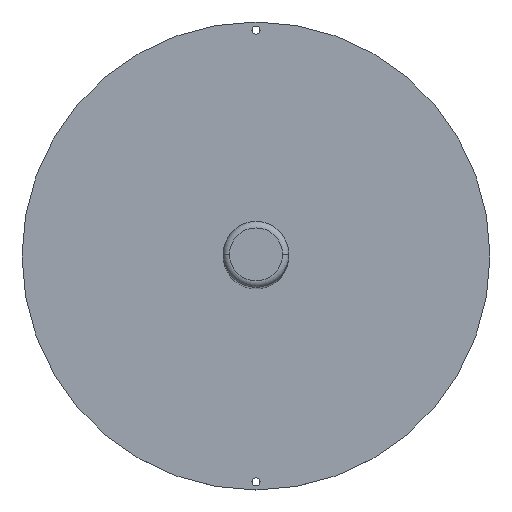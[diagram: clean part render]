
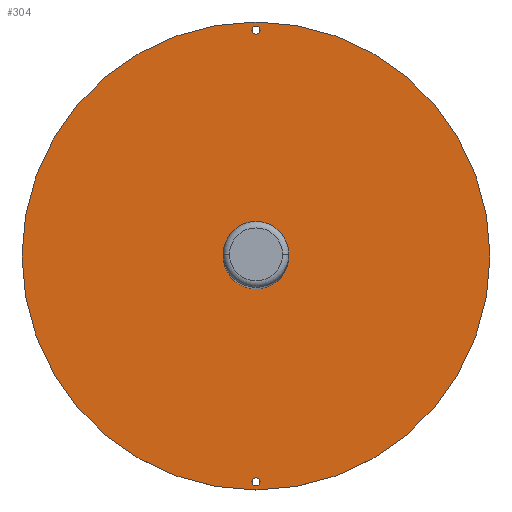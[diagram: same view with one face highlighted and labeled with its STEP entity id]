
A CAD part, top view. The second image highlights one B-rep face of the part: STEP entity #304.
In plain terms, the highlighted planar face has unit normal (0, 0, 1).
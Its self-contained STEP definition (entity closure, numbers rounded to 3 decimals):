
#12 = CIRCLE ( 'NONE', #32, 1.25 ) ;
#32 = AXIS2_PLACEMENT_3D ( 'NONE', #290, #465, #532 ) ;
#33 = DIRECTION ( 'NONE',  ( 0., 0., -1. ) ) ;
#37 = CARTESIAN_POINT ( 'NONE',  ( 0., -70., 2.5 ) ) ;
#67 = DIRECTION ( 'NONE',  ( -1., 0., 0. ) ) ;
#68 = VERTEX_POINT ( 'NONE', #102 ) ;
#79 = DIRECTION ( 'NONE',  ( 0., 0., 1. ) ) ;
#82 = CIRCLE ( 'NONE', #137, 10.2 ) ;
#90 = DIRECTION ( 'NONE',  ( 1., 0., 0. ) ) ;
#93 = AXIS2_PLACEMENT_3D ( 'NONE', #247, #166, #406 ) ;
#101 = AXIS2_PLACEMENT_3D ( 'NONE', #37, #328, #212 ) ;
#102 = CARTESIAN_POINT ( 'NONE',  ( 1.25, -70., 2.5 ) ) ;
#110 = AXIS2_PLACEMENT_3D ( 'NONE', #158, #33, #67 ) ;
#112 = DIRECTION ( 'NONE',  ( 1., 0., 0. ) ) ;
#114 = FACE_BOUND ( 'NONE', #363, .T. ) ;
#117 = CARTESIAN_POINT ( 'NONE',  ( 0., 0., 2.5 ) ) ;
#118 = VERTEX_POINT ( 'NONE', #232 ) ;
#125 = CIRCLE ( 'NONE', #287, 1.25 ) ;
#127 = ORIENTED_EDGE ( 'NONE', *, *, #402, .F. ) ;
#137 = AXIS2_PLACEMENT_3D ( 'NONE', #408, #459, #90 ) ;
#138 = CARTESIAN_POINT ( 'NONE',  ( 72.5, 0., 2.5 ) ) ;
#157 = VERTEX_POINT ( 'NONE', #311 ) ;
#158 = CARTESIAN_POINT ( 'NONE',  ( 0., -70., 2.5 ) ) ;
#161 = ORIENTED_EDGE ( 'NONE', *, *, #417, .T. ) ;
#162 = EDGE_CURVE ( 'NONE', #68, #351, #352, .T. ) ;
#166 = DIRECTION ( 'NONE',  ( 0., 0., 1. ) ) ;
#170 = CARTESIAN_POINT ( 'NONE',  ( 0., 0., 2.5 ) ) ;
#191 = AXIS2_PLACEMENT_3D ( 'NONE', #450, #79, #477 ) ;
#195 = ORIENTED_EDGE ( 'NONE', *, *, #367, .T. ) ;
#199 = DIRECTION ( 'NONE',  ( 0., 0., 1. ) ) ;
#200 = VERTEX_POINT ( 'NONE', #521 ) ;
#204 = CIRCLE ( 'NONE', #93, 72.5 ) ;
#212 = DIRECTION ( 'NONE',  ( -1., 0., 0. ) ) ;
#232 = CARTESIAN_POINT ( 'NONE',  ( 1.25, 70., 2.5 ) ) ;
#239 = ORIENTED_EDGE ( 'NONE', *, *, #439, .T. ) ;
#241 = PLANE ( 'NONE',  #518 ) ;
#243 = FACE_BOUND ( 'NONE', #494, .T. ) ;
#247 = CARTESIAN_POINT ( 'NONE',  ( 0., 0., 2.5 ) ) ;
#250 = DIRECTION ( 'NONE',  ( 1., 0., 0. ) ) ;
#255 = CARTESIAN_POINT ( 'NONE',  ( -72.5, 0., 2.5 ) ) ;
#283 = AXIS2_PLACEMENT_3D ( 'NONE', #170, #451, #250 ) ;
#287 = AXIS2_PLACEMENT_3D ( 'NONE', #469, #482, #461 ) ;
#290 = CARTESIAN_POINT ( 'NONE',  ( 0., 70., 2.5 ) ) ;
#302 = CIRCLE ( 'NONE', #101, 1.25 ) ;
#304 = ADVANCED_FACE ( 'NONE', ( #243, #114, #400, #478 ), #241, .T. ) ;
#311 = CARTESIAN_POINT ( 'NONE',  ( 10.2, 0., 2.5 ) ) ;
#325 = ORIENTED_EDGE ( 'NONE', *, *, #499, .T. ) ;
#328 = DIRECTION ( 'NONE',  ( 0., 0., -1. ) ) ;
#331 = EDGE_CURVE ( 'NONE', #368, #380, #353, .T. ) ;
#334 = CARTESIAN_POINT ( 'NONE',  ( -1.25, -70., 2.5 ) ) ;
#343 = EDGE_CURVE ( 'NONE', #157, #200, #484, .T. ) ;
#351 = VERTEX_POINT ( 'NONE', #334 ) ;
#352 = CIRCLE ( 'NONE', #110, 1.25 ) ;
#353 = CIRCLE ( 'NONE', #191, 72.5 ) ;
#363 = EDGE_LOOP ( 'NONE', ( #195, #501 ) ) ;
#367 = EDGE_CURVE ( 'NONE', #351, #68, #302, .T. ) ;
#368 = VERTEX_POINT ( 'NONE', #138 ) ;
#374 = ORIENTED_EDGE ( 'NONE', *, *, #343, .F. ) ;
#380 = VERTEX_POINT ( 'NONE', #255 ) ;
#400 = FACE_BOUND ( 'NONE', #453, .T. ) ;
#402 = EDGE_CURVE ( 'NONE', #200, #157, #82, .T. ) ;
#406 = DIRECTION ( 'NONE',  ( 1., 0., 0. ) ) ;
#408 = CARTESIAN_POINT ( 'NONE',  ( 0., 0., 2.5 ) ) ;
#417 = EDGE_CURVE ( 'NONE', #380, #368, #204, .T. ) ;
#439 = EDGE_CURVE ( 'NONE', #481, #118, #12, .T. ) ;
#450 = CARTESIAN_POINT ( 'NONE',  ( 0., 0., 2.5 ) ) ;
#451 = DIRECTION ( 'NONE',  ( 0., 0., 1. ) ) ;
#453 = EDGE_LOOP ( 'NONE', ( #127, #374 ) ) ;
#459 = DIRECTION ( 'NONE',  ( 0., 0., 1. ) ) ;
#461 = DIRECTION ( 'NONE',  ( -1., 0., 0. ) ) ;
#465 = DIRECTION ( 'NONE',  ( 0., 0., -1. ) ) ;
#469 = CARTESIAN_POINT ( 'NONE',  ( 0., 70., 2.5 ) ) ;
#477 = DIRECTION ( 'NONE',  ( 1., 0., 0. ) ) ;
#478 = FACE_OUTER_BOUND ( 'NONE', #505, .T. ) ;
#481 = VERTEX_POINT ( 'NONE', #504 ) ;
#482 = DIRECTION ( 'NONE',  ( 0., 0., -1. ) ) ;
#484 = CIRCLE ( 'NONE', #283, 10.2 ) ;
#494 = EDGE_LOOP ( 'NONE', ( #239, #325 ) ) ;
#499 = EDGE_CURVE ( 'NONE', #118, #481, #125, .T. ) ;
#501 = ORIENTED_EDGE ( 'NONE', *, *, #162, .T. ) ;
#504 = CARTESIAN_POINT ( 'NONE',  ( -1.25, 70., 2.5 ) ) ;
#505 = EDGE_LOOP ( 'NONE', ( #161, #527 ) ) ;
#518 = AXIS2_PLACEMENT_3D ( 'NONE', #117, #199, #112 ) ;
#521 = CARTESIAN_POINT ( 'NONE',  ( -10.2, 0., 2.5 ) ) ;
#527 = ORIENTED_EDGE ( 'NONE', *, *, #331, .T. ) ;
#532 = DIRECTION ( 'NONE',  ( -1., 0., 0. ) ) ;
